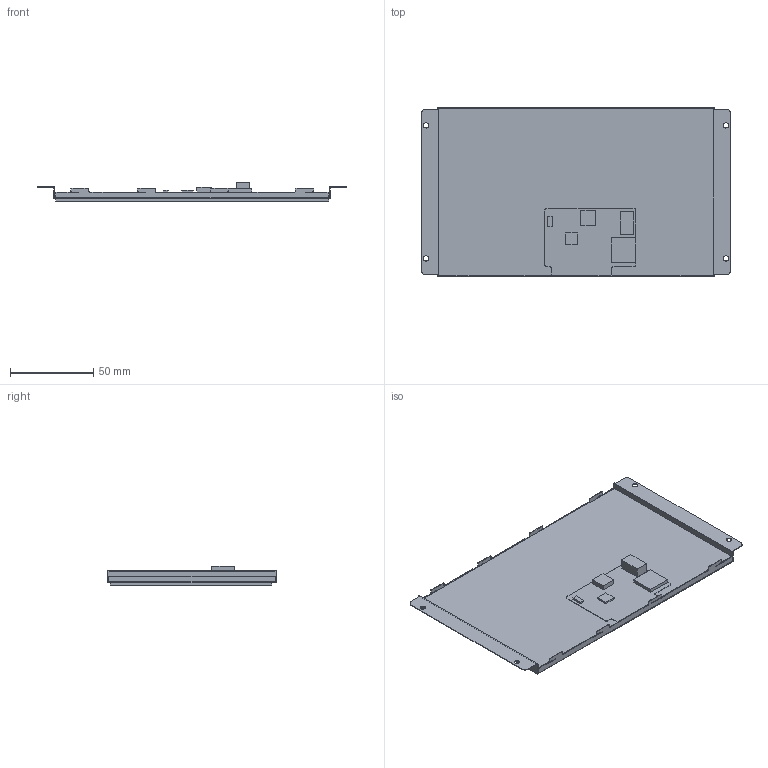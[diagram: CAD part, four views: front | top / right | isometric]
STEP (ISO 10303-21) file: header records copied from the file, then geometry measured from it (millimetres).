
FILE_DESCRIPTION(/* description */ (''),/* implementation_level */ '2;1');
FILE_NAME(/* name */ 'VTc070C01AT.stp',/* time_stamp */ '2026-05-29T09:46:22+08:00',/* author */ (''),/* organization */ (''),/* preprocessor_version */ 'ST-DEVELOPER v16',/* originating_system */ 'SIEMENS PLM Software NX 10.0',/* authorisation */ '');
FILE_SCHEMA (('AP203_CONFIGURATION_CONTROLLED_3D_DESIGN_OF_MECHANICAL_PARTS_AND_ASSEMBLIES_MIM_LF { 1 0 10303 403 2 1 2}'));
Length unit declared in the file: millimetre
Products named in the file (1): VTc070C01AT
Bounding box: 186.3 x 101.2 x 11.81 mm (x, y, z)
Volume: 83609.1 mm3; surface area: 114960.2 mm2
Topology: 8 solids, 8 shells, 190 faces, 507 edges, 338 vertices
Faces by surface type: plane 143, cylinder 42, extrusion 5
Full cylindrical faces by diameter (mm): 3.2 x4
Entity records: 6721 total; most frequent: CARTESIAN_POINT 1607, ORIENTED_EDGE 1006, DIRECTION 902, EDGE_CURVE 503, VECTOR 362, LINE 357, VERTEX_POINT 338, AXIS2_PLACEMENT_3D 270
